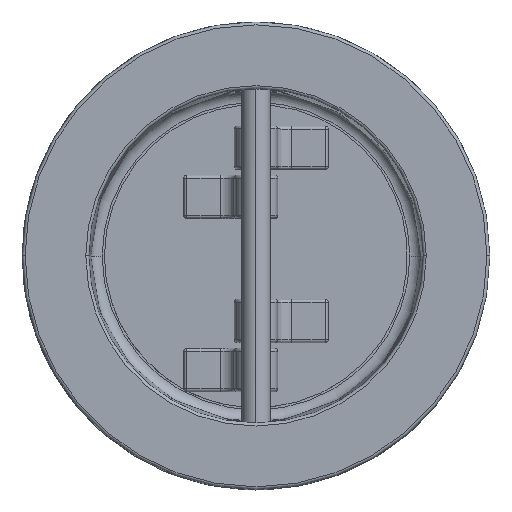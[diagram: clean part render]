
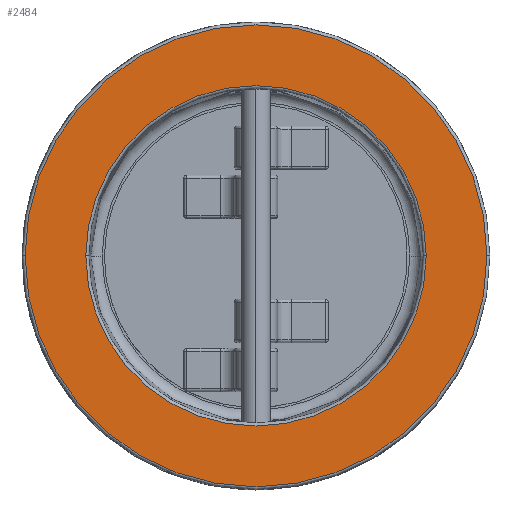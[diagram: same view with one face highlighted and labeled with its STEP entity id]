
A CAD part, top view. The second image highlights one B-rep face of the part: STEP entity #2484.
In plain terms, the highlighted planar face has unit normal (0, 0, 1).
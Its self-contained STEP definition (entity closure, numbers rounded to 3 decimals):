
#458 = CARTESIAN_POINT ( 'NONE',  ( 0., 0., 32. ) ) ;
#694 = CIRCLE ( 'NONE', #4006, 58.948 ) ;
#1100 = AXIS2_PLACEMENT_3D ( 'NONE', #9038, #2480, #11038 ) ;
#1442 = PLANE ( 'NONE',  #1100 ) ;
#1584 = CIRCLE ( 'NONE', #10213, 80. ) ;
#1907 = EDGE_LOOP ( 'NONE', ( #2615, #12922 ) ) ;
#1987 = CARTESIAN_POINT ( 'NONE',  ( 0., 0., 32. ) ) ;
#1994 = CARTESIAN_POINT ( 'NONE',  ( 58.948, 0., 32. ) ) ;
#2270 = AXIS2_PLACEMENT_3D ( 'NONE', #6617, #2341, #7648 ) ;
#2341 = DIRECTION ( 'NONE',  ( 0., 0., -1. ) ) ;
#2480 = DIRECTION ( 'NONE',  ( 0., 0., 1. ) ) ;
#2484 = ADVANCED_FACE ( 'NONE', ( #6691, #5788 ), #1442, .T. ) ;
#2557 = VERTEX_POINT ( 'NONE', #1994 ) ;
#2614 = DIRECTION ( 'NONE',  ( 0., 0., -1. ) ) ;
#2615 = ORIENTED_EDGE ( 'NONE', *, *, #5182, .T. ) ;
#2805 = EDGE_LOOP ( 'NONE', ( #12043, #3019 ) ) ;
#3019 = ORIENTED_EDGE ( 'NONE', *, *, #5320, .T. ) ;
#4006 = AXIS2_PLACEMENT_3D ( 'NONE', #458, #2614, #4684 ) ;
#4174 = VERTEX_POINT ( 'NONE', #7107 ) ;
#4252 = DIRECTION ( 'NONE',  ( 0., 0., 1. ) ) ;
#4684 = DIRECTION ( 'NONE',  ( 1., 0., 0. ) ) ;
#4752 = CARTESIAN_POINT ( 'NONE',  ( -58.948, 0., 32. ) ) ;
#5182 = EDGE_CURVE ( 'NONE', #2557, #12688, #694, .T. ) ;
#5285 = DIRECTION ( 'NONE',  ( 1., 0., 0. ) ) ;
#5320 = EDGE_CURVE ( 'NONE', #4174, #8344, #12183, .T. ) ;
#5788 = FACE_OUTER_BOUND ( 'NONE', #2805, .T. ) ;
#6436 = AXIS2_PLACEMENT_3D ( 'NONE', #1987, #4252, #5285 ) ;
#6617 = CARTESIAN_POINT ( 'NONE',  ( 0., 0., 32. ) ) ;
#6691 = FACE_BOUND ( 'NONE', #1907, .T. ) ;
#6945 = EDGE_CURVE ( 'NONE', #8344, #4174, #1584, .T. ) ;
#7107 = CARTESIAN_POINT ( 'NONE',  ( -80., 0., 32. ) ) ;
#7648 = DIRECTION ( 'NONE',  ( 1., 0., 0. ) ) ;
#8125 = EDGE_CURVE ( 'NONE', #12688, #2557, #13537, .T. ) ;
#8344 = VERTEX_POINT ( 'NONE', #11518 ) ;
#9038 = CARTESIAN_POINT ( 'NONE',  ( 0., 0., 32. ) ) ;
#9047 = CARTESIAN_POINT ( 'NONE',  ( 0., 0., 32. ) ) ;
#10213 = AXIS2_PLACEMENT_3D ( 'NONE', #9047, #12297, #13266 ) ;
#11038 = DIRECTION ( 'NONE',  ( 1., 0., 0. ) ) ;
#11518 = CARTESIAN_POINT ( 'NONE',  ( 80., 0., 32. ) ) ;
#12043 = ORIENTED_EDGE ( 'NONE', *, *, #6945, .T. ) ;
#12183 = CIRCLE ( 'NONE', #6436, 80. ) ;
#12297 = DIRECTION ( 'NONE',  ( 0., 0., 1. ) ) ;
#12688 = VERTEX_POINT ( 'NONE', #4752 ) ;
#12922 = ORIENTED_EDGE ( 'NONE', *, *, #8125, .T. ) ;
#13266 = DIRECTION ( 'NONE',  ( 1., 0., 0. ) ) ;
#13537 = CIRCLE ( 'NONE', #2270, 58.948 ) ;
